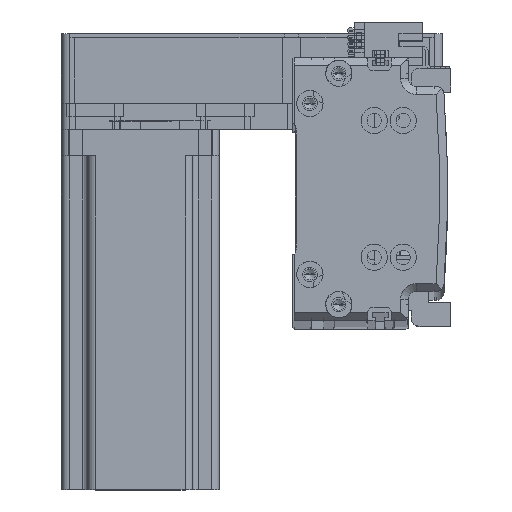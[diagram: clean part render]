
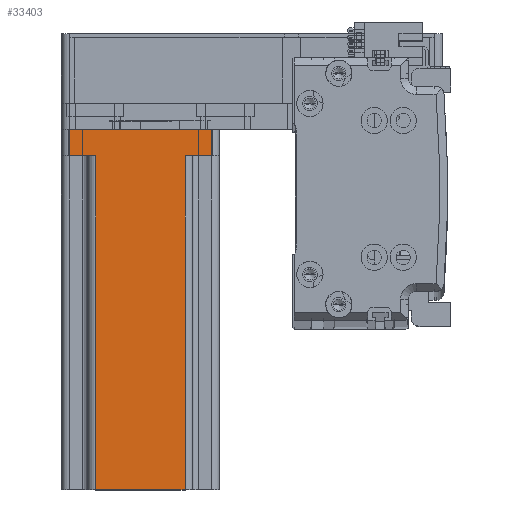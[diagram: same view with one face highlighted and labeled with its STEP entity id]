
A CAD part, top view. The second image highlights one B-rep face of the part: STEP entity #33403.
In plain terms, the highlighted planar face has unit normal (0, 0, 1) as drawn and (0, -1, 0) by its records, which use the part's own axes.
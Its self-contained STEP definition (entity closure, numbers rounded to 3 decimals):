
#158 = LINE ( 'NONE', #32333, #39035 ) ;
#903 = VECTOR ( 'NONE', #48348, 1000. ) ;
#6820 = CARTESIAN_POINT ( 'NONE',  ( 27., -30., 0. ) ) ;
#8203 = ORIENTED_EDGE ( 'NONE', *, *, #26593, .F. ) ;
#9384 = DIRECTION ( 'NONE',  ( 0., 0., 1. ) ) ;
#10721 = DIRECTION ( 'NONE',  ( 1., 0., 0. ) ) ;
#10738 = CARTESIAN_POINT ( 'NONE',  ( -27., -30., 137. ) ) ;
#12009 = EDGE_CURVE ( 'NONE', #29301, #31820, #41388, .T. ) ;
#12072 = VECTOR ( 'NONE', #23550, 1000. ) ;
#12414 = ORIENTED_EDGE ( 'NONE', *, *, #22174, .F. ) ;
#13642 = VERTEX_POINT ( 'NONE', #35922 ) ;
#15617 = FACE_OUTER_BOUND ( 'NONE', #64296, .T. ) ;
#15812 = DIRECTION ( 'NONE',  ( 0., 0., -1. ) ) ;
#16873 = VECTOR ( 'NONE', #15812, 1000. ) ;
#16900 = DIRECTION ( 'NONE',  ( 1., 0., 0. ) ) ;
#17288 = VERTEX_POINT ( 'NONE', #58492 ) ;
#19040 = CARTESIAN_POINT ( 'NONE',  ( 30., -30., 137. ) ) ;
#22174 = EDGE_CURVE ( 'NONE', #13642, #57283, #47789, .T. ) ;
#22449 = EDGE_CURVE ( 'NONE', #61066, #57283, #39002, .T. ) ;
#23550 = DIRECTION ( 'NONE',  ( 0., 0., -1. ) ) ;
#24193 = DIRECTION ( 'NONE',  ( -1., 0., 0. ) ) ;
#26491 = ORIENTED_EDGE ( 'NONE', *, *, #31083, .T. ) ;
#26593 = EDGE_CURVE ( 'NONE', #61066, #31820, #30804, .T. ) ;
#29075 = PLANE ( 'NONE',  #45512 ) ;
#29301 = VERTEX_POINT ( 'NONE', #34840 ) ;
#30355 = LINE ( 'NONE', #10738, #16873 ) ;
#30804 = LINE ( 'NONE', #52229, #57810 ) ;
#31083 = EDGE_CURVE ( 'NONE', #13642, #64184, #30355, .T. ) ;
#31820 = VERTEX_POINT ( 'NONE', #43610 ) ;
#32333 = CARTESIAN_POINT ( 'NONE',  ( 20., -30., 10. ) ) ;
#33403 = ADVANCED_FACE ( 'NONE', ( #15617 ), #29075, .F. ) ;
#33455 = EDGE_CURVE ( 'NONE', #65628, #17288, #46482, .T. ) ;
#34840 = CARTESIAN_POINT ( 'NONE',  ( 17., -30., 10. ) ) ;
#35922 = CARTESIAN_POINT ( 'NONE',  ( -27., -30., 10. ) ) ;
#36294 = EDGE_CURVE ( 'NONE', #64184, #65628, #49263, .T. ) ;
#38096 = ORIENTED_EDGE ( 'NONE', *, *, #33455, .T. ) ;
#39002 = LINE ( 'NONE', #64132, #12072 ) ;
#39035 = VECTOR ( 'NONE', #62779, 1000. ) ;
#41388 = LINE ( 'NONE', #58333, #903 ) ;
#41704 = CARTESIAN_POINT ( 'NONE',  ( -17., -30., 10. ) ) ;
#43610 = CARTESIAN_POINT ( 'NONE',  ( 17., -30., 137. ) ) ;
#44577 = VECTOR ( 'NONE', #16900, 1000. ) ;
#44761 = CARTESIAN_POINT ( 'NONE',  ( 27., -30., 137. ) ) ;
#45512 = AXIS2_PLACEMENT_3D ( 'NONE', #19040, #54624, #24193 ) ;
#45898 = CARTESIAN_POINT ( 'NONE',  ( 30., -30., 0. ) ) ;
#46291 = EDGE_CURVE ( 'NONE', #17288, #29301, #158, .T. ) ;
#46482 = LINE ( 'NONE', #44761, #60027 ) ;
#47034 = ORIENTED_EDGE ( 'NONE', *, *, #22449, .T. ) ;
#47063 = DIRECTION ( 'NONE',  ( 1., 0., 0. ) ) ;
#47789 = LINE ( 'NONE', #62378, #44577 ) ;
#48348 = DIRECTION ( 'NONE',  ( 0., 0., 1. ) ) ;
#49263 = LINE ( 'NONE', #45898, #61132 ) ;
#50990 = ORIENTED_EDGE ( 'NONE', *, *, #12009, .T. ) ;
#51014 = CARTESIAN_POINT ( 'NONE',  ( -17., -30., 137. ) ) ;
#52229 = CARTESIAN_POINT ( 'NONE',  ( 30., -30., 137. ) ) ;
#52517 = ORIENTED_EDGE ( 'NONE', *, *, #46291, .T. ) ;
#54624 = DIRECTION ( 'NONE',  ( 0., 1., 0. ) ) ;
#57283 = VERTEX_POINT ( 'NONE', #41704 ) ;
#57810 = VECTOR ( 'NONE', #47063, 1000. ) ;
#58333 = CARTESIAN_POINT ( 'NONE',  ( 17., -30., 137. ) ) ;
#58492 = CARTESIAN_POINT ( 'NONE',  ( 27., -30., 10. ) ) ;
#59273 = ORIENTED_EDGE ( 'NONE', *, *, #36294, .T. ) ;
#59996 = CARTESIAN_POINT ( 'NONE',  ( -27., -30., 0. ) ) ;
#60027 = VECTOR ( 'NONE', #9384, 1000. ) ;
#61066 = VERTEX_POINT ( 'NONE', #51014 ) ;
#61132 = VECTOR ( 'NONE', #10721, 1000. ) ;
#62378 = CARTESIAN_POINT ( 'NONE',  ( -20., -30., 10. ) ) ;
#62779 = DIRECTION ( 'NONE',  ( -1., 0., 0. ) ) ;
#64132 = CARTESIAN_POINT ( 'NONE',  ( -17., -30., 137. ) ) ;
#64184 = VERTEX_POINT ( 'NONE', #59996 ) ;
#64296 = EDGE_LOOP ( 'NONE', ( #8203, #47034, #12414, #26491, #59273, #38096, #52517, #50990 ) ) ;
#65628 = VERTEX_POINT ( 'NONE', #6820 ) ;
